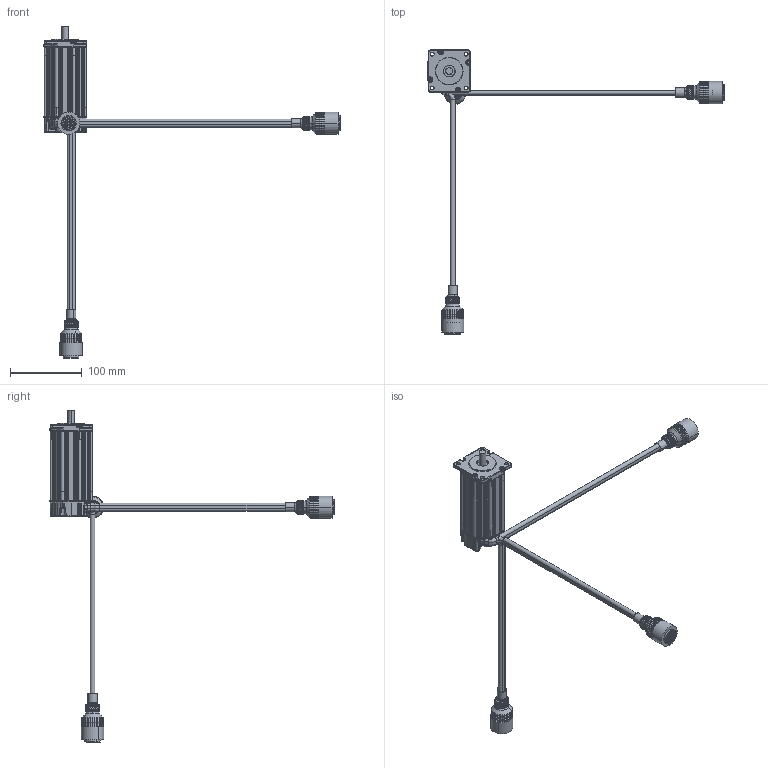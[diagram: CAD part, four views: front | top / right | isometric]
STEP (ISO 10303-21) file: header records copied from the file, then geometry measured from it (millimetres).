
FILE_DESCRIPTION (( 'STEP AP203' ), '1' );
FILE_NAME ('2341 for custormer.STEP', '2009-11-19T14:07:27', ( ' ' ), ( ' ' ), 'SwSTEP 2.0', 'SolidWorks 2007', '' );
FILE_SCHEMA (( 'CONFIG_CONTROL_DESIGN' ));
Length unit declared in the file: inch
Products named in the file (1): 2341 for custormer
Bounding box: 412.63 x 395.92 x 462.31 mm (x, y, z)
Volume: 588099.6 mm3; surface area: 161107.7 mm2
Topology: 21 solids, 22 shells, 3533 faces, 8098 edges, 4745 vertices
Faces by surface type: bspline 1383, cylinder 1191, plane 404, torus 324, cone 231
Entity records: 121405 total; most frequent: CARTESIAN_POINT 51999, ORIENTED_EDGE 16150, DIRECTION 13014, EDGE_CURVE 8075, AXIS2_PLACEMENT_3D 5507, VERTEX_POINT 4745, EDGE_LOOP 3744, ADVANCED_FACE 3533
